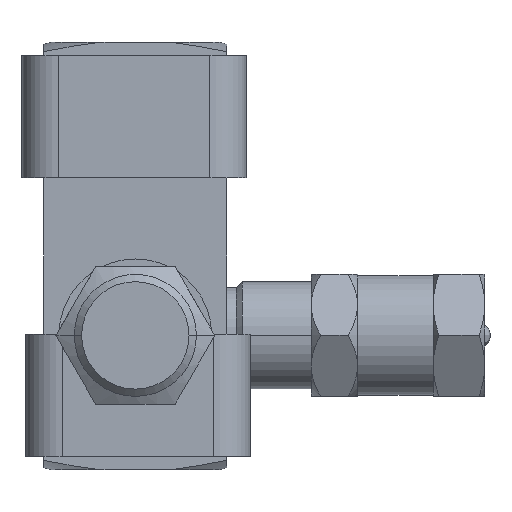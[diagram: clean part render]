
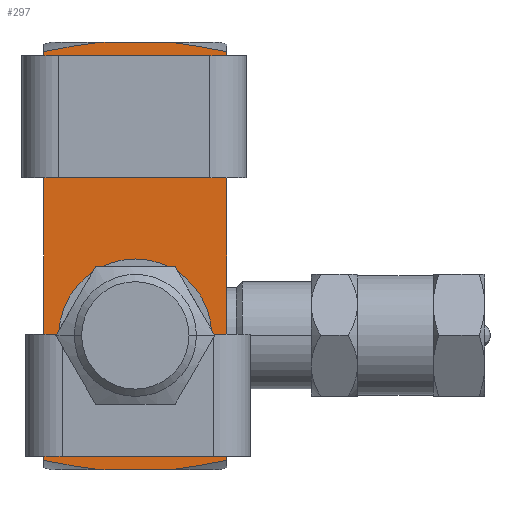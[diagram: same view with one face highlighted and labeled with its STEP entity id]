
A CAD part, front view. The second image highlights one B-rep face of the part: STEP entity #297.
In plain terms, the highlighted planar face has unit normal (0, -1, 0).
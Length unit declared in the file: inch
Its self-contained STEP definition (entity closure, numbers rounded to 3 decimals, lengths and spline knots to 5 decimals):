
#6=DIRECTION('',(1.,0.,0.));
#7=VECTOR('',#6,0.28977);
#8=CARTESIAN_POINT('',(-0.14489,-0.312,-0.875));
#9=LINE('',#8,#7);
#59=CARTESIAN_POINT('',(-0.375,-0.312,0.83646));
#60=CARTESIAN_POINT('',(-0.35639,-0.312,0.8403));
#61=CARTESIAN_POINT('',(-0.32079,-0.312,0.84739));
#62=CARTESIAN_POINT('',(-0.27283,-0.312,0.85625));
#63=CARTESIAN_POINT('',(-0.22851,-0.312,0.86369));
#64=CARTESIAN_POINT('',(-0.18637,-0.312,0.86995));
#65=CARTESIAN_POINT('',(-0.1586,-0.312,0.87345));
#66=CARTESIAN_POINT('',(-0.14489,-0.312,0.875));
#68=CARTESIAN_POINT('',(0.14489,-0.312,0.875));
#69=CARTESIAN_POINT('',(0.15894,-0.312,0.87341));
#70=CARTESIAN_POINT('',(0.18727,-0.312,0.86983));
#71=CARTESIAN_POINT('',(0.22988,-0.312,0.86347));
#72=CARTESIAN_POINT('',(0.27413,-0.312,0.85601));
#73=CARTESIAN_POINT('',(0.32149,-0.312,0.84725));
#74=CARTESIAN_POINT('',(0.35665,-0.312,0.84024));
#75=CARTESIAN_POINT('',(0.375,-0.312,0.83646));
#77=CARTESIAN_POINT('',(0.14489,-0.312,-0.875));
#78=CARTESIAN_POINT('',(0.15894,-0.312,-0.87341));
#79=CARTESIAN_POINT('',(0.18727,-0.312,-0.86983));
#80=CARTESIAN_POINT('',(0.22988,-0.312,-0.86347));
#81=CARTESIAN_POINT('',(0.27413,-0.312,-0.85601));
#82=CARTESIAN_POINT('',(0.32149,-0.312,-0.84725));
#83=CARTESIAN_POINT('',(0.35665,-0.312,-0.84024));
#84=CARTESIAN_POINT('',(0.375,-0.312,-0.83646));
#86=CARTESIAN_POINT('',(-0.375,-0.312,-0.83646));
#87=CARTESIAN_POINT('',(-0.35639,-0.312,-0.8403));
#88=CARTESIAN_POINT('',(-0.32079,-0.312,-0.84739));
#89=CARTESIAN_POINT('',(-0.27283,-0.312,-0.85625));
#90=CARTESIAN_POINT('',(-0.22851,-0.312,-0.86369));
#91=CARTESIAN_POINT('',(-0.18637,-0.312,-0.86995));
#92=CARTESIAN_POINT('',(-0.1586,-0.312,-0.87345));
#93=CARTESIAN_POINT('',(-0.14489,-0.312,-0.875));
#95=DIRECTION('',(0.,0.,1.));
#96=VECTOR('',#95,1.67293);
#97=CARTESIAN_POINT('',(-0.375,-0.312,-0.83646));
#98=LINE('',#97,#96);
#113=DIRECTION('',(1.,0.,0.));
#114=VECTOR('',#113,0.28977);
#115=CARTESIAN_POINT('',(-0.14489,-0.312,0.875));
#116=LINE('',#115,#114);
#147=DIRECTION('',(0.,0.,1.));
#148=VECTOR('',#147,1.67293);
#149=CARTESIAN_POINT('',(0.375,-0.312,-0.83646));
#150=LINE('',#149,#148);
#164=CARTESIAN_POINT('',(-0.375,-0.312,0.83646));
#179=CARTESIAN_POINT('',(-0.375,-0.312,-0.83646));
#186=CARTESIAN_POINT('',(-0.14489,-0.312,-0.875));
#188=VERTEX_POINT('',#186);
#189=CARTESIAN_POINT('',(0.14489,-0.312,-0.875));
#191=VERTEX_POINT('',#189);
#194=CARTESIAN_POINT('',(-0.14489,-0.312,0.875));
#196=VERTEX_POINT('',#194);
#197=CARTESIAN_POINT('',(0.14489,-0.312,0.875));
#199=VERTEX_POINT('',#197);
#202=VERTEX_POINT('',#164);
#204=VERTEX_POINT('',#179);
#205=VERTEX_POINT('',#75);
#206=VERTEX_POINT('',#84);
#277=CARTESIAN_POINT('',(-0.375,-0.312,-0.875));
#278=DIRECTION('',(0.,-1.,0.));
#279=DIRECTION('',(1.,0.,0.));
#280=AXIS2_PLACEMENT_3D('',#277,#278,#279);
#281=PLANE('',#280);
#282=ORIENTED_EDGE('',*,*,#267,.T.);
#284=ORIENTED_EDGE('',*,*,#283,.T.);
#286=ORIENTED_EDGE('',*,*,#285,.T.);
#288=ORIENTED_EDGE('',*,*,#287,.F.);
#290=ORIENTED_EDGE('',*,*,#289,.F.);
#291=ORIENTED_EDGE('',*,*,#216,.F.);
#292=ORIENTED_EDGE('',*,*,#234,.F.);
#294=ORIENTED_EDGE('',*,*,#293,.T.);
#295=EDGE_LOOP('',(#282,#284,#286,#288,#290,#291,#292,#294));
#296=FACE_OUTER_BOUND('',#295,.F.);
#297=ADVANCED_FACE('',(#296),#281,.T.);
#67=B_SPLINE_CURVE_WITH_KNOTS('',3,(#59,#60,#61,#62,#63,#64,#65,#66),
.UNSPECIFIED.,.F.,.F.,(4,1,1,1,1,4),(0.,0.2,0.4,0.6,0.8,1.),
.UNSPECIFIED.);
#76=B_SPLINE_CURVE_WITH_KNOTS('',3,(#68,#69,#70,#71,#72,#73,#74,#75),
.UNSPECIFIED.,.F.,.F.,(4,1,1,1,1,4),(0.,0.2,0.4,0.6,0.8,1.),
.UNSPECIFIED.);
#85=B_SPLINE_CURVE_WITH_KNOTS('',3,(#77,#78,#79,#80,#81,#82,#83,#84),
.UNSPECIFIED.,.F.,.F.,(4,1,1,1,1,4),(0.,0.2,0.4,0.6,0.8,1.),
.UNSPECIFIED.);
#94=B_SPLINE_CURVE_WITH_KNOTS('',3,(#86,#87,#88,#89,#90,#91,#92,#93),
.UNSPECIFIED.,.F.,.F.,(4,1,1,1,1,4),(0.,0.2,0.4,0.6,0.8,1.),
.UNSPECIFIED.);
#216=EDGE_CURVE('',#188,#191,#9,.T.);
#234=EDGE_CURVE('',#204,#188,#94,.T.);
#267=EDGE_CURVE('',#202,#196,#67,.T.);
#283=EDGE_CURVE('',#196,#199,#116,.T.);
#285=EDGE_CURVE('',#199,#205,#76,.T.);
#287=EDGE_CURVE('',#206,#205,#150,.T.);
#289=EDGE_CURVE('',#191,#206,#85,.T.);
#293=EDGE_CURVE('',#204,#202,#98,.T.);
